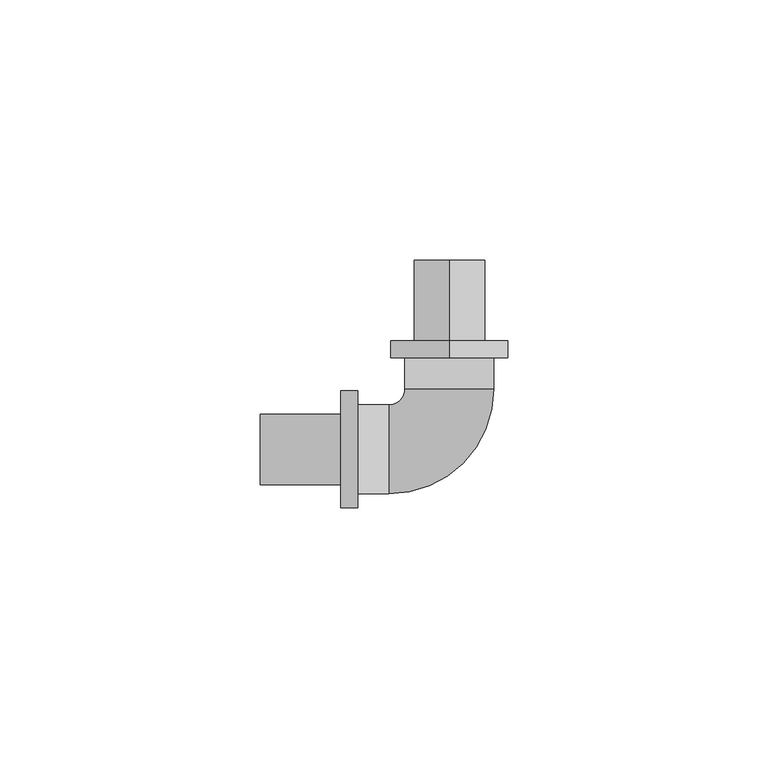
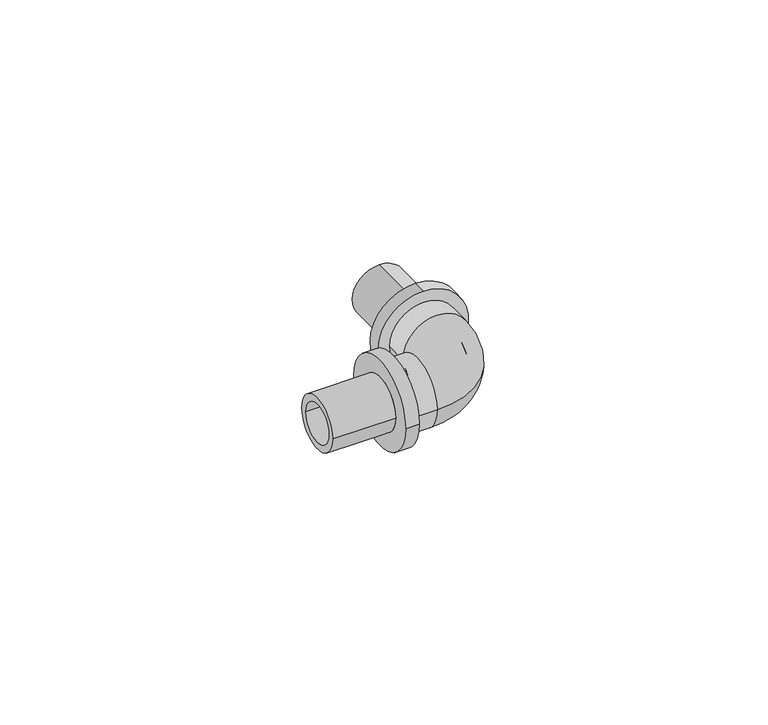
"""IFC4 building model written with IfcOpenShell, lengths in millimetres: pipe fitting geometry, RAUTITAN_Corner_RX+ : RTI RX+ C DN."""

import ifcopenshell
import ifcopenshell.guid

model = None  # the IFC model being written
_history = None  # IfcOwnerHistory: only IFC2X3 demands one
_inside = {}  # id of a spatial element -> (the spatial element, [elements in it])
_under = {}  # id of a project, library or spatial element -> (it, [spatial elements below it])
_declared = {}  # id of a project -> (the project, [libraries it declares])
_typed = {}  # id of a type object -> (the type object, [elements of that type])
_made_of = {}  # id of a material, layer set ... -> (it, [elements and type objects made of it])


def new_model(schema):
    """Start an empty IFC model of exactly this schema.

    Asked for "IFC4X3", IfcOpenShell would pick the latest addendum, in which some entities
    have other attributes; the version numbers below select the first issue.
    IFC2X3 requires an IfcOwnerHistory on every rooted entity: one is made here for all.
    """
    global model, _history
    if schema == "IFC4X3":
        model = ifcopenshell.file(schema_version=(4, 3, 0, 0))
    else:
        model = ifcopenshell.file(schema=schema)
    _inside.clear()
    _under.clear()
    _declared.clear()
    _typed.clear()
    _made_of.clear()
    _history = None
    if model.schema == "IFC2X3":
        org = make("IfcOrganization", Name="unknown")
        user = make(
            "IfcPersonAndOrganization",
            ThePerson=make("IfcPerson", FamilyName="unknown"),
            TheOrganization=org,
        )
        app = make(
            "IfcApplication",
            ApplicationDeveloper=org,
            Version="unknown",
            ApplicationFullName="unknown",
            ApplicationIdentifier="unknown",
        )
        _history = make(
            "IfcOwnerHistory",
            OwningUser=user,
            OwningApplication=app,
            ChangeAction="ADDED",
            CreationDate=0,
        )
    return model


def make(cls, **values):
    """One entity of the class cls with the attributes given. An attribute that is None is left unset."""
    return model.create_entity(
        cls, **{name: value for name, value in values.items() if value is not None}
    )


def rooted(cls, **values):
    """An entity with a GlobalId (a new one), such as an element, a storey or a relation."""
    return make(cls, GlobalId=ifcopenshell.guid.new(), OwnerHistory=_history, **values)


def si_unit(unit_type, name, prefix=None):
    """IfcSIUnit, for example si_unit("LENGTHUNIT", "METRE", prefix="MILLI")."""
    return make("IfcSIUnit", UnitType=unit_type, Prefix=prefix, Name=name)


def assignment(units):
    """IfcUnitAssignment: the units of a project."""
    return None if units is None else make("IfcUnitAssignment", Units=units)


def point(xyz):
    """IfcCartesianPoint."""
    return None if xyz is None else make("IfcCartesianPoint", Coordinates=xyz)


def direction(xyz):
    """IfcDirection."""
    return None if xyz is None else make("IfcDirection", DirectionRatios=xyz)


def frame(location, z_axis=None, x_axis=None):
    """IfcAxis2Placement3D, a coordinate frame: its origin and axes. An axis left out is left unset."""
    return make(
        "IfcAxis2Placement3D",
        Location=point(location),
        Axis=direction(z_axis),
        RefDirection=direction(x_axis),
    )


def origin():
    """The frame at (0, 0, 0) with its axes left unset."""
    return frame((0.0, 0.0, 0.0))


def place(relative_to, where):
    """IfcLocalPlacement: puts the frame where relative to a parent placement (None: the world)."""
    return make(
        "IfcLocalPlacement", PlacementRelTo=relative_to, RelativePlacement=where
    )


def context(
    kind, dimensions, precision=None, world=None, true_north=None, identifier=None
):
    """IfcGeometricRepresentationContext, for example the 3D "Model" context."""
    return make(
        "IfcGeometricRepresentationContext",
        ContextIdentifier=identifier,
        ContextType=kind,
        CoordinateSpaceDimension=dimensions,
        Precision=precision,
        WorldCoordinateSystem=world,
        TrueNorth=true_north,
    )


def project(units=None, contexts=None):
    """IfcProject with its units and contexts."""
    return rooted(
        "IfcProject",
        Name="project",
        RepresentationContexts=contexts,
        UnitsInContext=assignment(units),
    )


def spatial(cls, under=None, at=None, **own):
    """A site, building, storey or space (cls), placed at a placement, below another one or the project."""
    s = rooted(cls, ObjectPlacement=at, **own)
    if under is not None:
        _under.setdefault(under.id(), (under, []))[1].append(s)
    return s


def polyline(points):
    """IfcPolyline through the points."""
    return make("IfcPolyline", Points=[point(p) for p in points])


def circle_curve(where, radius):
    """IfcCircle in the frame where."""
    return make("IfcCircle", Position=where, Radius=radius)


def ellipse_curve(where, semi_axis1, semi_axis2):
    """IfcEllipse in the frame where."""
    return make(
        "IfcEllipse", Position=where, SemiAxis1=semi_axis1, SemiAxis2=semi_axis2
    )


def trimmed(basis, trim1, trim2, sense, master):
    """IfcTrimmedCurve: the piece of a basis curve between two trims."""
    return make(
        "IfcTrimmedCurve",
        BasisCurve=basis,
        Trim1=trim1,
        Trim2=trim2,
        SenseAgreement=sense,
        MasterRepresentation=master,
    )


def shape(context_of_items, identifier, shape_type, items):
    """IfcShapeRepresentation: the items that make up one representation, for example the "Body"."""
    return make(
        "IfcShapeRepresentation",
        ContextOfItems=context_of_items,
        RepresentationIdentifier=identifier,
        RepresentationType=shape_type,
        Items=items,
    )


def source(mapping_origin, context_of_items, identifier, shape_type, items):
    """IfcRepresentationMap: a shape defined once, which mapped items show again and again."""
    return make(
        "IfcRepresentationMap",
        MappingOrigin=mapping_origin,
        MappedRepresentation=shape(context_of_items, identifier, shape_type, items),
    )


def transform(
    local_origin,
    x_axis=None,
    y_axis=None,
    z_axis=None,
    scale=None,
    scale2=None,
    scale3=None,
    uniform=True,
):
    """IfcCartesianTransformationOperator3D, or its non-uniform kind. x_axis, y_axis, z_axis: its Axis1, 2, 3."""
    if uniform:
        return make(
            "IfcCartesianTransformationOperator3D",
            Axis1=direction(x_axis),
            Axis2=direction(y_axis),
            LocalOrigin=point(local_origin),
            Scale=scale,
            Axis3=direction(z_axis),
        )
    return make(
        "IfcCartesianTransformationOperator3DnonUniform",
        Axis1=direction(x_axis),
        Axis2=direction(y_axis),
        LocalOrigin=point(local_origin),
        Scale=scale,
        Axis3=direction(z_axis),
        Scale2=scale2,
        Scale3=scale3,
    )


def mapped(mapping_source, mapping_target):
    """IfcMappedItem: shows the shape of a source again, moved by a transform."""
    return make(
        "IfcMappedItem", MappingSource=mapping_source, MappingTarget=mapping_target
    )


def made_of(thing, what):
    """Note that an element or type object is made of a material, layer set ...; save() writes the relation."""
    if what is not None:
        _made_of.setdefault(what.id(), (what, []))[1].append(thing)
    return thing


def element(
    cls,
    number,
    at=None,
    inside=None,
    cuts=None,
    type_object=None,
    material=None,
    context=None,
    identifier="Body",
    shape_type=None,
    held_by="IfcProductDefinitionShape",
    body=None,
    shapes=None,
    **own,
):
    """One element of the class cls, such as IfcWall. Its Tag is "e" and its number.

    at: its placement. inside: the storey or other place that contains it. cuts: it is an
    opening in that element (IfcRelVoidsElement). A single representation is given by context,
    identifier, shape_type and body (its items); several are given by shapes. held_by: the class
    of the entity that holds the representations. save() writes the other relations.
    """
    e = rooted(cls, Tag="e%d" % number, ObjectPlacement=at, **own)
    if body is not None:
        shapes = [shape(context, identifier, shape_type, body)]
    if shapes is not None:
        e.Representation = make(held_by, Representations=shapes)
    if inside is not None:
        _inside.setdefault(inside.id(), (inside, []))[1].append(e)
    if cuts is not None:
        rooted(
            "IfcRelVoidsElement", RelatingBuildingElement=cuts, RelatedOpeningElement=e
        )
    if type_object is not None:
        _typed.setdefault(type_object.id(), (type_object, []))[1].append(e)
    return made_of(e, material)


def aggregate(whole, parts):
    """IfcRelAggregates: a whole, such as a stair, and the parts it consists of."""
    return rooted("IfcRelAggregates", RelatingObject=whole, RelatedObjects=parts)


def save(model, path):
    """Write the relations noted so far, then the file.

    IfcRelAggregates (storeys below a building ...), IfcRelContainedInSpatialStructure (elements
    in a storey), IfcRelDefinesByType, IfcRelAssociatesMaterial and IfcRelDeclares: one each for
    every whole, place, type object, material and project.
    """
    for whole, parts in _under.values():
        aggregate(whole, parts)
    for where, things in _inside.values():
        rooted(
            "IfcRelContainedInSpatialStructure",
            RelatedElements=things,
            RelatingStructure=where,
        )
    for kind, things in _typed.values():
        rooted("IfcRelDefinesByType", RelatedObjects=things, RelatingType=kind)
    for what, things in _made_of.values():
        rooted("IfcRelAssociatesMaterial", RelatedObjects=things, RelatingMaterial=what)
    for by, libraries in _declared.values():
        rooted("IfcRelDeclares", RelatingContext=by, RelatedDefinitions=libraries)
    model.write(path)


def plane_surface(at):
    """IfcPlane: the flat surface through the origin of the frame at, square to its z axis."""
    return make("IfcPlane", Position=at)


def cylinder_surface(at, radius):
    """IfcCylindricalSurface: all points at the distance radius from the z axis of the frame at."""
    return make("IfcCylindricalSurface", Position=at, Radius=radius)


def revolved_surface(curve, axis_point, axis_direction):
    """IfcSurfaceOfRevolution: the curve turned about the line through axis_point along axis_direction."""
    return make(
        "IfcSurfaceOfRevolution",
        SweptCurve=make("IfcArbitraryOpenProfileDef", ProfileType="CURVE", Curve=curve),
        AxisPosition=make("IfcAxis1Placement", Location=point(axis_point), Axis=direction(axis_direction)),
    )


def advanced_brep(points, edges, surfaces, faces):
    """IfcAdvancedBrep: a solid bounded by faces that lie on surfaces and meet in shared edges.

    An edge is (start, end): straight between two places in points (the first is 0);
    or (start, end, curve); or (start, end, curve, False) where it runs against its curve.
    A face is (place in surfaces, loops), or (place, loops, False) where it looks against
    its surface's normal. A loop lists edges by number (the first is 1), with a minus sign
    where the edge is run from its end to its start. The first loop is the outer one.
    """
    corners = [point(p) for p in points]
    vertices = [make("IfcVertexPoint", VertexGeometry=c) for c in corners]
    made = []
    for start, end, *more in edges:
        made.append(
            make(
                "IfcEdgeCurve",
                EdgeStart=vertices[start],
                EdgeEnd=vertices[end],
                EdgeGeometry=more[0] if more else make("IfcPolyline", Points=[corners[start], corners[end]]),
                SameSense=more[1] if len(more) > 1 else True,
            )
        )
    hull = []
    for where, loops, *sense in faces:
        bounds = []
        for j, loop in enumerate(loops):
            ring = [make("IfcOrientedEdge", EdgeElement=made[abs(k) - 1], Orientation=k > 0) for k in loop]
            bounds.append(
                make(
                    "IfcFaceOuterBound" if j == 0 else "IfcFaceBound",
                    Bound=make("IfcEdgeLoop", EdgeList=ring),
                    Orientation=True,
                )
            )
        hull.append(make("IfcAdvancedFace", Bounds=bounds, FaceSurface=surfaces[where], SameSense=sense[0] if sense else True))
    return make("IfcAdvancedBrep", Outer=make("IfcClosedShell", CfsFaces=hull))


def pipe_fitting_b86a113a(model_context):
    return source(origin(), model_context, "Body", "AdvancedBrep", [
        advanced_brep(
        [(0.0, 20.9, 11.25), (0.0, 20.9, -11.25), (0.0, 17.6, -11.25), (0.0, 17.6, 11.25), (0.0, 36.4, 6.75), (0.0, 36.4, -6.75), (0.0, 20.9, -6.75), (0.0, 20.9, 6.75), (0.0, 17.6, 4.95), (0.0, 17.6, -4.95), (0.0, 36.4, -4.95), (0.0, 36.4, 4.95)],
        [
            (0, 1, circle_curve(frame((0.0, 20.9, 0.0), z_axis=(0.0, -1.0, 0.0), x_axis=(0.0, 0.0, -1.0)), 11.25)),
            (1, 2),
            (2, 3, circle_curve(frame((0.0, 17.6, 0.0), z_axis=(0.0, 1.0, 0.0), x_axis=(0.0, 0.0, -1.0)), 11.25)),
            (3, 0),
            (4, 5, circle_curve(frame((0.0, 36.4, 0.0), z_axis=(0.0, -1.0, 0.0), x_axis=(0.0, 0.0, -1.0)), 6.75)),
            (5, 6),
            (6, 7, circle_curve(frame((0.0, 20.9, 0.0), z_axis=(0.0, 1.0, 0.0), x_axis=(0.0, 0.0, -1.0)), 6.75)),
            (7, 4),
            (8, 9, circle_curve(frame((0.0, 17.6, 0.0), z_axis=(0.0, -1.0, 0.0), x_axis=(0.0, 0.0, -1.0)), 4.95)),
            (9, 10),
            (10, 11, circle_curve(frame((0.0, 36.4, 0.0), z_axis=(0.0, 1.0, 0.0), x_axis=(0.0, 0.0, -1.0)), 4.95)),
            (11, 8),
            (1, 0, circle_curve(frame((0.0, 20.9, 0.0), z_axis=(0.0, -1.0, 0.0), x_axis=(0.0, 0.0, 1.0)), 11.25)),
            (3, 2, circle_curve(frame((0.0, 17.6, 0.0), z_axis=(0.0, 1.0, 0.0), x_axis=(0.0, 0.0, 1.0)), 11.25)),
            (6, 7, circle_curve(frame((0.0, 20.9, 0.0), z_axis=(0.0, -1.0, 0.0), x_axis=(0.0, 0.0, 1.0)), 6.75)),
            (5, 4, circle_curve(frame((0.0, 36.4, 0.0), z_axis=(0.0, -1.0, 0.0), x_axis=(0.0, 0.0, 1.0)), 6.75)),
            (10, 11, circle_curve(frame((0.0, 36.4, 0.0), z_axis=(0.0, -1.0, 0.0), x_axis=(0.0, 0.0, 1.0)), 4.95)),
            (9, 8, circle_curve(frame((0.0, 17.6, 0.0), z_axis=(0.0, -1.0, 0.0), x_axis=(0.0, 0.0, 1.0)), 4.95)),
        ],
        [
            cylinder_surface(frame((0.0, 17.6, 0.0), z_axis=(0.0, 1.0, 0.0), x_axis=(0.0, 0.0, -1.0)), 11.25),
            cylinder_surface(frame((0.0, 17.6, 0.0), z_axis=(0.0, 1.0, 0.0), x_axis=(0.0, 0.0, -1.0)), 6.75),
            revolved_surface(polyline([(0.0, 36.4, -4.95), (0.0, 17.6, -4.95)]), (0.0, 17.6, 0.0), (0.0, 1.0, 0.0)),
            cylinder_surface(frame((0.0, 17.6, 0.0), z_axis=(0.0, 1.0, 0.0), x_axis=(0.0, 0.0, 1.0)), 11.25),
            plane_surface(frame((0.0, 20.9, 0.0), z_axis=(0.0, 1.0, 0.0), x_axis=(0.0, 0.0, 1.0))),
            cylinder_surface(frame((0.0, 17.6, 0.0), z_axis=(0.0, 1.0, 0.0), x_axis=(0.0, 0.0, 1.0)), 6.75),
            plane_surface(frame((0.0, 36.4, 0.0), z_axis=(0.0, 1.0, 0.0), x_axis=(0.0, 0.0, 1.0))),
            revolved_surface(polyline([(0.0, 36.4, 4.95), (0.0, 17.6, 4.95)]), (0.0, 17.6, 0.0), (0.0, 1.0, 0.0)),
            plane_surface(frame((0.0, 17.6, 0.0), z_axis=(0.0, -1.0, 0.0), x_axis=(0.0, 0.0, 1.0))),
        ],
        [
            (0, [[1, 2, 3, 4]]),
            (1, [[5, 6, 7, 8]]),
            (2, [[9, 10, 11, 12]]),
            (3, [[13, -4, 14, -2]]),
            (4, [[-13, -1], [15, -7]]),
            (5, [[16, -8, -15, -6]]),
            (6, [[-16, -5], [17, -11]]),
            (7, [[18, -12, -17, -10]]),
            (8, [[-14, -3], [-18, -9]]),
        ],
    ),
        advanced_brep(
        [(-20.9, -11.25, 0.0), (-20.9, 11.25, 0.0), (-17.6, 11.25, 0.0), (-17.6, -11.25, 0.0), (-36.4, -6.75, 0.0), (-36.4, 6.75, 0.0), (-20.9, 6.75, 0.0), (-20.9, -6.75, 0.0), (-17.6, -4.95, 0.0), (-17.6, 4.95, 0.0), (-36.4, 4.95, 0.0), (-36.4, -4.95, 0.0)],
        [
            (0, 1, circle_curve(frame((-20.9, 0.0, 0.0), z_axis=(1.0, 0.0, 0.0), x_axis=(0.0, 1.0, 0.0)), 11.25)),
            (1, 2),
            (2, 3, circle_curve(frame((-17.6, 0.0, 0.0), z_axis=(-1.0, 0.0, 0.0), x_axis=(0.0, 1.0, 0.0)), 11.25)),
            (3, 0),
            (4, 5, circle_curve(frame((-36.4, 0.0, 0.0), z_axis=(1.0, 0.0, 0.0), x_axis=(0.0, 1.0, 0.0)), 6.75)),
            (5, 6),
            (6, 7, circle_curve(frame((-20.9, 0.0, 0.0), z_axis=(-1.0, 0.0, 0.0), x_axis=(0.0, 1.0, 0.0)), 6.75)),
            (7, 4),
            (8, 9, circle_curve(frame((-17.6, 0.0, 0.0), z_axis=(1.0, 0.0, 0.0), x_axis=(0.0, 1.0, 0.0)), 4.95)),
            (9, 10),
            (10, 11, circle_curve(frame((-36.4, 0.0, 0.0), z_axis=(-1.0, 0.0, 0.0), x_axis=(0.0, 1.0, 0.0)), 4.95)),
            (11, 8),
            (1, 0, circle_curve(frame((-20.9, 0.0, 0.0), z_axis=(1.0, 0.0, 0.0), x_axis=(0.0, -1.0, 0.0)), 11.25)),
            (3, 2, circle_curve(frame((-17.6, 0.0, 0.0), z_axis=(-1.0, 0.0, 0.0), x_axis=(0.0, -1.0, 0.0)), 11.25)),
            (6, 7, circle_curve(frame((-20.9, 0.0, 0.0), z_axis=(1.0, 0.0, 0.0), x_axis=(0.0, -1.0, 0.0)), 6.75)),
            (5, 4, circle_curve(frame((-36.4, 0.0, 0.0), z_axis=(1.0, 0.0, 0.0), x_axis=(0.0, -1.0, 0.0)), 6.75)),
            (10, 11, circle_curve(frame((-36.4, 0.0, 0.0), z_axis=(1.0, 0.0, 0.0), x_axis=(0.0, -1.0, 0.0)), 4.95)),
            (9, 8, circle_curve(frame((-17.6, 0.0, 0.0), z_axis=(1.0, 0.0, 0.0), x_axis=(0.0, -1.0, 0.0)), 4.95)),
        ],
        [
            cylinder_surface(frame((-17.6, 0.0, 0.0), z_axis=(-1.0, 0.0, 0.0), x_axis=(0.0, 1.0, 0.0)), 11.25),
            cylinder_surface(frame((-17.6, 0.0, 0.0), z_axis=(-1.0, 0.0, 0.0), x_axis=(0.0, 1.0, 0.0)), 6.75),
            revolved_surface(polyline([(-36.4, 4.95, 0.0), (-17.6, 4.95, 0.0)]), (-17.6, 0.0, 0.0), (-1.0, 0.0, 0.0)),
            cylinder_surface(frame((-17.6, 0.0, 0.0), z_axis=(-1.0, 0.0, 0.0), x_axis=(0.0, -1.0, 0.0)), 11.25),
            plane_surface(frame((-20.9, 0.0, 0.0), z_axis=(-1.0, 0.0, 0.0), x_axis=(0.0, -1.0, 0.0))),
            cylinder_surface(frame((-17.6, 0.0, 0.0), z_axis=(-1.0, 0.0, 0.0), x_axis=(0.0, -1.0, 0.0)), 6.75),
            plane_surface(frame((-36.4, 0.0, 0.0), z_axis=(-1.0, 0.0, 0.0), x_axis=(0.0, -1.0, 0.0))),
            revolved_surface(polyline([(-36.4, -4.95, 0.0), (-17.6, -4.95, 0.0)]), (-17.6, 0.0, 0.0), (-1.0, 0.0, 0.0)),
            plane_surface(frame((-17.6, 0.0, 0.0), z_axis=(1.0, 0.0, 0.0), x_axis=(0.0, -1.0, 0.0))),
        ],
        [
            (0, [[1, 2, 3, 4]]),
            (1, [[5, 6, 7, 8]]),
            (2, [[9, 10, 11, 12]]),
            (3, [[13, -4, 14, -2]]),
            (4, [[-13, -1], [15, -7]]),
            (5, [[16, -8, -15, -6]]),
            (6, [[-16, -5], [17, -11]]),
            (7, [[18, -12, -17, -10]]),
            (8, [[-14, -3], [-18, -9]]),
        ],
    ),
        advanced_brep(
        [(-17.6, 8.55, 0.0), (-17.6, -8.55, 0.0), (-17.6, 4.95, 0.0), (-17.6, -4.95, 0.0), (-11.65, -4.95, 0.0), (-11.65, 0.0, -4.95), (-11.65, 4.95, 0.0), (-11.65, 0.0, 4.95), (-11.65, -8.55, 0.0), (-11.65, 8.55, 0.0), (8.55, 17.6, 0.0), (-8.55, 17.6, 0.0), (4.95, 17.6, 0.0), (-4.95, 17.6, 0.0), (-4.95, 11.65, 0.0), (0.0, 11.65, -4.95), (4.95, 11.65, 0.0), (0.0, 11.65, 4.95), (-8.55, 11.65, 0.0), (8.55, 11.65, 0.0)],
        [
            (0, 1, circle_curve(frame((-17.6, 0.0, 0.0), z_axis=(-1.0, 0.0, 0.0), x_axis=(0.0, -1.0, 0.0)), 8.55)),
            (1, 0, circle_curve(frame((-17.6, 0.0, 0.0), z_axis=(-1.0, 0.0, 0.0), x_axis=(0.0, -1.0, 0.0)), 8.55)),
            (2, 3, circle_curve(frame((-17.6, 0.0, 0.0), z_axis=(1.0, 0.0, 0.0), x_axis=(0.0, -1.0, 0.0)), 4.95)),
            (3, 2, circle_curve(frame((-17.6, 0.0, 0.0), z_axis=(1.0, 0.0, 0.0), x_axis=(0.0, -1.0, 0.0)), 4.95)),
            (3, 4),
            (4, 5, circle_curve(frame((-11.65, 0.0, 0.0), z_axis=(1.0, 0.0, 0.0), x_axis=(0.0, -1.0, 0.0)), 4.95)),
            (5, 6, circle_curve(frame((-11.65, 0.0, 0.0), z_axis=(1.0, 0.0, 0.0), x_axis=(0.0, -1.0, 0.0)), 4.95)),
            (6, 2),
            (6, 7, circle_curve(frame((-11.65, 0.0, 0.0), z_axis=(1.0, 0.0, 0.0), x_axis=(0.0, -1.0, 0.0)), 4.95)),
            (7, 4, circle_curve(frame((-11.65, 0.0, 0.0), z_axis=(1.0, 0.0, 0.0), x_axis=(0.0, -1.0, 0.0)), 4.95)),
            (1, 8),
            (8, 9, circle_curve(frame((-11.65, 0.0, 0.0), z_axis=(-1.0, 0.0, 0.0), x_axis=(0.0, -1.0, 0.0)), 8.55)),
            (9, 0),
            (9, 8, circle_curve(frame((-11.65, 0.0, 0.0), z_axis=(-1.0, 0.0, 0.0), x_axis=(0.0, -1.0, 0.0)), 8.55)),
            (10, 11, circle_curve(frame((0.0, 17.6, 0.0), z_axis=(0.0, 1.0, 0.0), x_axis=(-1.0, 0.0, 0.0)), 8.55)),
            (11, 10, circle_curve(frame((0.0, 17.6, 0.0), z_axis=(0.0, 1.0, 0.0), x_axis=(-1.0, 0.0, 0.0)), 8.55)),
            (12, 13, circle_curve(frame((0.0, 17.6, 0.0), z_axis=(0.0, -1.0, 0.0), x_axis=(-1.0, 0.0, 0.0)), 4.95)),
            (13, 12, circle_curve(frame((0.0, 17.6, 0.0), z_axis=(0.0, -1.0, 0.0), x_axis=(-1.0, 0.0, 0.0)), 4.95)),
            (13, 14),
            (14, 15, circle_curve(frame((0.0, 11.65, 0.0), z_axis=(0.0, -1.0, 0.0), x_axis=(-1.0, 0.0, 0.0)), 4.95)),
            (15, 16, circle_curve(frame((0.0, 11.65, 0.0), z_axis=(0.0, -1.0, 0.0), x_axis=(-1.0, 0.0, 0.0)), 4.95)),
            (16, 12),
            (16, 17, circle_curve(frame((0.0, 11.65, 0.0), z_axis=(0.0, -1.0, 0.0), x_axis=(-1.0, 0.0, 0.0)), 4.95)),
            (17, 14, circle_curve(frame((0.0, 11.65, 0.0), z_axis=(0.0, -1.0, 0.0), x_axis=(-1.0, 0.0, 0.0)), 4.95)),
            (11, 18),
            (18, 19, circle_curve(frame((0.0, 11.65, 0.0), z_axis=(0.0, 1.0, 0.0), x_axis=(-1.0, 0.0, 0.0)), 8.55)),
            (19, 10),
            (19, 18, circle_curve(frame((0.0, 11.65, 0.0), z_axis=(0.0, 1.0, 0.0), x_axis=(-1.0, 0.0, 0.0)), 8.55)),
            (14, 6, circle_curve(frame((-11.65, 11.65, 0.0), z_axis=(0.0, 0.0, -1.0), x_axis=(0.0, -1.0, 0.0)), 6.7)),
            (4, 16, circle_curve(frame((-11.65, 11.65, 0.0), z_axis=(0.0, 0.0, 1.0), x_axis=(0.0, -1.0, 0.0)), 16.6)),
            (18, 9, circle_curve(frame((-11.65, 11.65, 0.0), z_axis=(0.0, 0.0, -1.0), x_axis=(0.0, -1.0, 0.0)), 3.1)),
            (8, 19, circle_curve(frame((-11.65, 11.65, 0.0), z_axis=(0.0, 0.0, 1.0), x_axis=(0.0, -1.0, 0.0)), 20.2)),
        ],
        [
            plane_surface(frame((-17.6, 0.0, 0.0), z_axis=(-1.0, 0.0, 0.0), x_axis=(0.0, 0.0, 1.0))),
            revolved_surface(polyline([(-17.6, -4.95, 0.0), (-11.65, -4.95, 0.0)]), (-11.65, 0.0, 0.0), (-1.0, 0.0, 0.0)),
            cylinder_surface(frame((-11.65, 0.0, 0.0), z_axis=(1.0, 0.0, 0.0), x_axis=(0.0, -1.0, 0.0)), 8.55),
            plane_surface(frame((0.0, 17.6, 0.0), z_axis=(0.0, 1.0, 0.0), x_axis=(0.0, 0.0, 1.0))),
            revolved_surface(polyline([(-4.95, 17.6, 0.0), (-4.95, 11.65, 0.0)]), (0.0, 11.65, 0.0), (0.0, 1.0, 0.0)),
            cylinder_surface(frame((0.0, 11.65, 0.0), z_axis=(0.0, -1.0, 0.0), x_axis=(-1.0, 0.0, 0.0)), 8.55),
            revolved_surface(trimmed(ellipse_curve(frame((-11.65, 0.0, 0.0), z_axis=(1.0, 0.0, 0.0), x_axis=(0.0, 1.0, 0.0)), 4.95, 4.95), [point((-11.65, -4.95, 0.0))], [point((-11.65, 4.95, 0.0))], True, "CARTESIAN"), (-11.65, 11.65, 0.0), (0.0, 0.0, 1.0)),
            revolved_surface(trimmed(ellipse_curve(frame((-11.65, 0.0, 0.0), z_axis=(1.0, 0.0, 0.0), x_axis=(0.0, 1.0, 0.0)), 4.95, 4.95), [point((-11.65, 4.95, 0.0))], [point((-11.65, -4.95, 0.0))], True, "CARTESIAN"), (-11.65, 11.65, 0.0), (0.0, 0.0, 1.0)),
            revolved_surface(trimmed(ellipse_curve(frame((-11.65, 0.0, 0.0), z_axis=(-1.0, 0.0, 0.0), x_axis=(0.0, 1.0, 0.0)), 8.55, 8.55), [point((-11.65, -8.55, 0.0))], [point((-11.65, 8.55, 0.0))], True, "CARTESIAN"), (-11.65, 11.65, 0.0), (0.0, 0.0, 1.0)),
            revolved_surface(trimmed(ellipse_curve(frame((-11.65, 0.0, 0.0), z_axis=(-1.0, 0.0, 0.0), x_axis=(0.0, 1.0, 0.0)), 8.55, 8.55), [point((-11.65, 8.55, 0.0))], [point((-11.65, -8.55, 0.0))], True, "CARTESIAN"), (-11.65, 11.65, 0.0), (0.0, 0.0, 1.0)),
        ],
        [
            (0, [[1, 2], [3, 4]]),
            (1, [[-4, 5, 6, 7, 8]]),
            (1, [[-3, -8, 9, 10, -5]]),
            (2, [[-2, 11, 12, 13]]),
            (2, [[-1, -13, 14, -11]]),
            (3, [[15, 16], [17, 18]]),
            (4, [[-18, 19, 20, 21, 22]]),
            (4, [[-17, -22, 23, 24, -19]]),
            (5, [[-16, 25, 26, 27]]),
            (5, [[-15, -27, 28, -25]]),
            (6, [[29, -7, -6, 30, -21, -20]]),
            (7, [[-29, -24, -23, -30, -10, -9]]),
            (8, [[31, -12, 32, -26]]),
            (9, [[-31, -28, -32, -14]]),
        ],
    ),
    ])


if __name__ == "__main__":
    model = new_model("IFC4")
    model_context = context("Model", 3, world=origin())
    ifc_project = project(units=[si_unit("LENGTHUNIT", "METRE", prefix="MILLI")], contexts=[model_context])
    site = spatial("IfcSite", under=ifc_project)
    building = spatial("IfcBuilding", under=site)
    placement = place(None, origin())
    pipe_fitting_shape = pipe_fitting_b86a113a(model_context)
    element("IfcPipeFitting", 1, ObjectType="RAUTITAN_Corner_RX+ : RTI RX+ C DN", at=placement, inside=building, context=model_context, shape_type="MappedRepresentation", body=[
        mapped(pipe_fitting_shape, transform((0.0, 0.0, 0.0), x_axis=(1.0, 0.0, 0.0), y_axis=(0.0, 1.0, 0.0), z_axis=(0.0, 0.0, 1.0))),
    ])
    save(model, "model.ifc")
